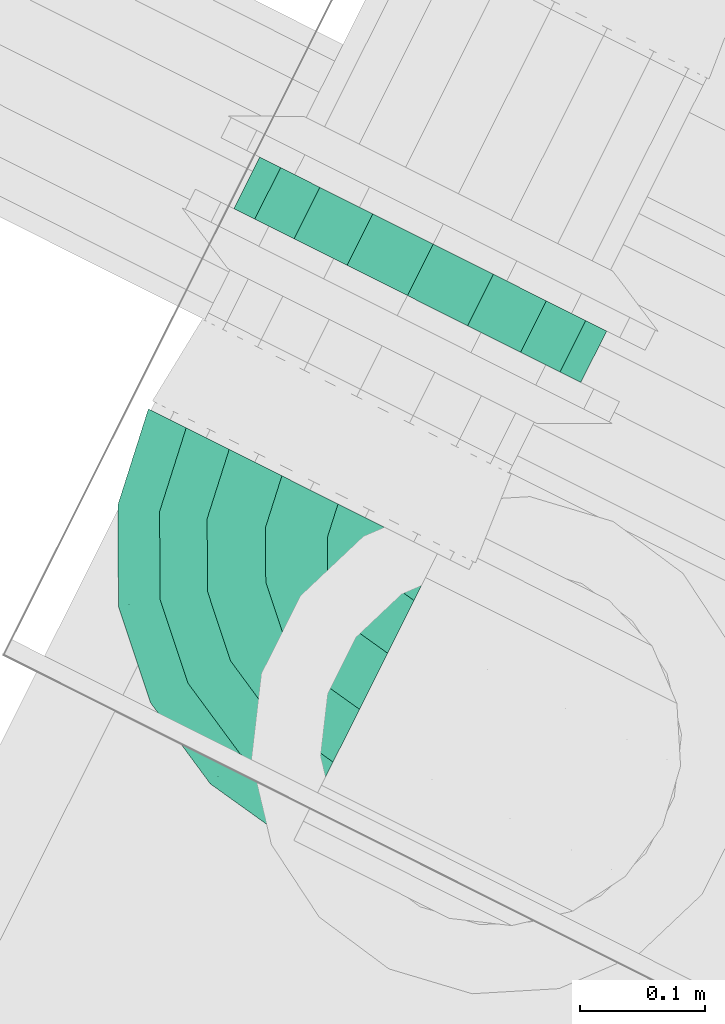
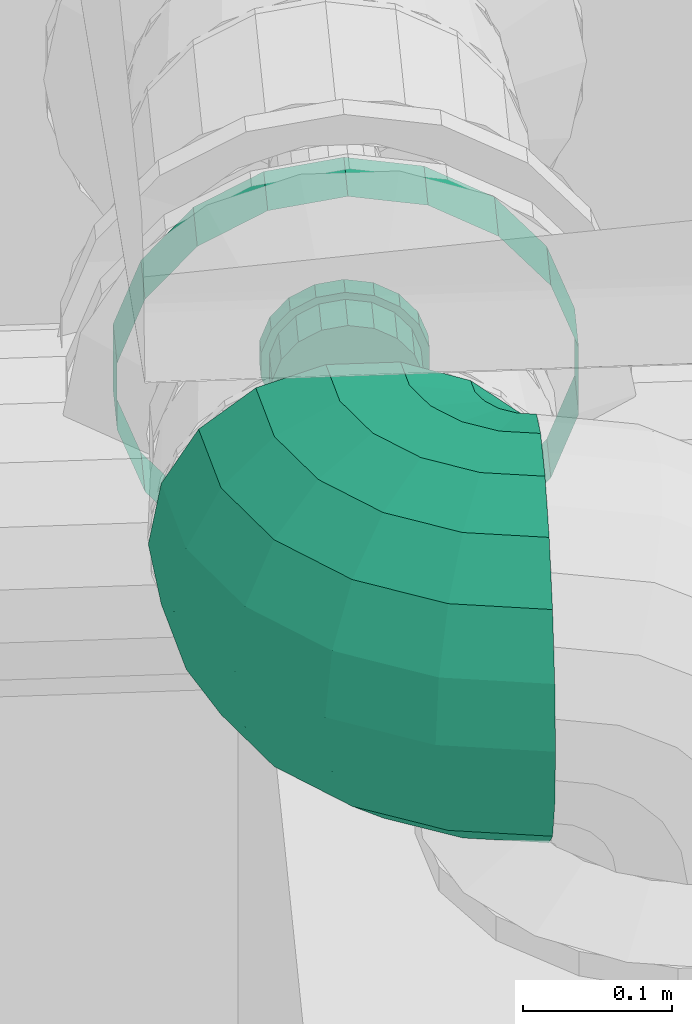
# One storey, part 89 of 206: 1 flow controller, 1 flow segment.
"""IFC2X3 building model written with IfcOpenShell, lengths in metres."""

from ifc_helpers import new_model, si_unit, derived_unit, direction, frame, origin, place, context, subcontext, project, spatial, face_set, surface_model, source, transform, mapped, material, type_object, type_shapes, element, save


model = new_model("IFC2X3")

# Units and contexts
model_context = context("Model", 3, precision=5.2338327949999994e-05, world=origin(), true_north=direction((0.0, 1.0)))
body_context = subcontext(model_context, "Body", "Model", "MODEL_VIEW")
ifc_project = project(units=[si_unit("LENGTHUNIT", "METRE"), si_unit("AREAUNIT", "SQUARE_METRE"), si_unit("VOLUMEUNIT", "CUBIC_METRE"), si_unit("MASSUNIT", "GRAM", prefix="KILO"), si_unit("PLANEANGLEUNIT", "RADIAN"), derived_unit("THERMALTRANSMITTANCEUNIT", [(si_unit("MASSUNIT", "GRAM", prefix="KILO"), 1), (si_unit("THERMODYNAMICTEMPERATUREUNIT", "KELVIN"), -1), (si_unit("TIMEUNIT", "SECOND"), -3)])], contexts=[model_context])

# Site, building, storey
site_placement = place(None, frame((0.0, 0.0, 0.0), z_axis=(0.0, 0.0, 1.0), x_axis=(0.8939966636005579, -0.4480736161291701, 0.0)))
site = spatial("IfcSite", under=ifc_project, at=site_placement, Name="Default", CompositionType="ELEMENT")
building_placement = place(site_placement, origin())
building = spatial("IfcBuilding", under=site, at=building_placement, CompositionType="ELEMENT")
storey_placement = place(building_placement, origin())
storey = spatial("IfcBuildingStorey", under=building, at=storey_placement, Name="Erdgeschoss", CompositionType="ELEMENT", Elevation=0.0)

# Flow segment
ifc_material = material(Name="IfcSurfaceStyle #1741")
distribution_element_type_1 = type_object("IfcDistributionElementType", Name="Rohrbogen 329245:Rohrbogen 329245", material=ifc_material)
shared_shape_1 = source(origin(), body_context, "Body", "SurfaceModel", [
    surface_model("IfcFaceBasedSurfaceModel", [(30.02516497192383, 8.436875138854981, 2.314000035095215), (30.074127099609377, 8.429120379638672, 2.314000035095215), (30.02599282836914, 8.439424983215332, 2.3292027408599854), (30.074127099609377, 8.431801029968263, 2.3292027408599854), (29.98099324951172, 8.459381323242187, 2.314000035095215), (29.982569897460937, 8.46155037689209, 2.3292027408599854), (29.945939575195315, 8.494435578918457, 2.314000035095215), (29.948106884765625, 8.49601106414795, 2.3292027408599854), (29.92343397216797, 8.538606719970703, 2.314000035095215), (29.925982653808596, 8.539434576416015, 2.3292027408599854), (29.9156786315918, 8.587570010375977, 2.314000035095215), (29.9183575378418, 8.587570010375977, 2.3292027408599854), (30.074127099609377, 8.439519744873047, 2.3425718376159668), (30.028378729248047, 8.446765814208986, 2.3425718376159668), (29.987106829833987, 8.467794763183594, 2.3425718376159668), (29.95435301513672, 8.500547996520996, 2.3425718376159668), (29.93332406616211, 8.54181989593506, 2.3425718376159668), (29.926077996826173, 8.587570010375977, 2.3425718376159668), (30.074127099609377, 8.451345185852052, 2.352494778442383), (30.03203199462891, 8.458012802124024, 2.352494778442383), (29.994057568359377, 8.47736162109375, 2.352494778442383), (29.963919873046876, 8.50749931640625, 2.352494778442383), (29.944569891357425, 8.545474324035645, 2.352494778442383), (29.937902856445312, 8.587570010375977, 2.352494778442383), (30.036515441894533, 8.471809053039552, 2.357774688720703), (30.074127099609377, 8.465851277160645, 2.357774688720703), (30.00258262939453, 8.489097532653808, 2.357774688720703), (29.9756563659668, 8.516025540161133, 2.357774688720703), (29.958366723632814, 8.549957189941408, 2.357774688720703), (29.95240894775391, 8.587570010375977, 2.357774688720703), (30.04128491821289, 8.486490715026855, 2.357774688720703), (30.074127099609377, 8.481288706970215, 2.357774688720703), (30.011656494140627, 8.50158688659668, 2.357774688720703), (29.98814397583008, 8.525099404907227, 2.357774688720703), (29.973049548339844, 8.55472724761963, 2.357774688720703), (29.967847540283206, 8.587570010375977, 2.357774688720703), (30.074127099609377, 8.495795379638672, 2.352494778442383), (30.045768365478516, 8.500286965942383, 2.352494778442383), (30.020183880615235, 8.51332279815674, 2.352494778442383), (29.99988046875, 8.533626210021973, 2.352494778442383), (29.986844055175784, 8.55921011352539, 2.352494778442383), (29.9823536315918, 8.587570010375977, 2.352494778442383), (30.074127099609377, 8.507620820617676, 2.3425718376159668), (30.049421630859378, 8.511533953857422, 2.3425718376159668), (30.027134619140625, 8.522889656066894, 2.3425718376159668), (30.00944732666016, 8.540576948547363, 2.3425718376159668), (29.998092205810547, 8.562864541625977, 2.3425718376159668), (29.99417849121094, 8.587570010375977, 2.3425718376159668), (30.051807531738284, 8.518874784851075, 2.3292027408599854), (30.074127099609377, 8.515339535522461, 2.3292027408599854), (30.031671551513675, 8.529134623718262, 2.3292027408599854), (30.015691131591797, 8.545113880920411, 2.3292027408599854), (30.005433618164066, 8.56524986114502, 2.3292027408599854), (30.00189662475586, 8.587570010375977, 2.3292027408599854), (30.052635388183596, 8.521424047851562, 2.314000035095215), (30.074127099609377, 8.518020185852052, 2.314000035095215), (30.033248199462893, 8.531303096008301, 2.314000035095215), (30.017860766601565, 8.546689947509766, 2.314000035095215), (30.007982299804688, 8.566078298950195, 2.314000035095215), (30.004577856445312, 8.587570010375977, 2.314000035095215), (30.074127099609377, 8.515339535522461, 2.298797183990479), (30.051807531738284, 8.518874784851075, 2.298797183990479), (30.031671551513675, 8.529134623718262, 2.298797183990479), (30.015691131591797, 8.545113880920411, 2.298797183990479), (30.005433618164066, 8.56524986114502, 2.298797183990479), (30.00189662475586, 8.587570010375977, 2.298797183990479), (30.074127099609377, 8.507620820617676, 2.285428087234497), (30.049421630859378, 8.511533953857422, 2.285428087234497), (30.027134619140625, 8.522889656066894, 2.285428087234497), (30.00944732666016, 8.540576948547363, 2.285428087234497), (29.998092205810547, 8.562864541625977, 2.285428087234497), (29.99417849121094, 8.587570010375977, 2.285428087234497), (30.074127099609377, 8.495795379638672, 2.275505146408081), (30.045768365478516, 8.500286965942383, 2.275505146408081), (30.020183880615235, 8.51332279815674, 2.275505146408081), (29.99988046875, 8.533626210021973, 2.275505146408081), (29.986844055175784, 8.55921011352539, 2.275505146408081), (29.9823536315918, 8.587570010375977, 2.275505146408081), (30.04128491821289, 8.486490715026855, 2.270225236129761), (30.074127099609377, 8.481288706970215, 2.270225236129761), (30.011656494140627, 8.50158688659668, 2.270225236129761), (29.98814397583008, 8.525099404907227, 2.270225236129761), (29.973049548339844, 8.55472724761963, 2.270225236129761), (29.967847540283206, 8.587570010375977, 2.270225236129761), (30.074127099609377, 8.465851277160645, 2.270225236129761), (30.036515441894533, 8.471809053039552, 2.270225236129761), (30.00258262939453, 8.489097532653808, 2.270225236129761), (29.9756563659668, 8.516025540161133, 2.270225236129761), (29.958366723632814, 8.549957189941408, 2.270225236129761), (29.95240894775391, 8.587570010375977, 2.270225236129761), (30.074127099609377, 8.451345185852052, 2.275505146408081), (30.03203199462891, 8.458012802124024, 2.275505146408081), (29.994057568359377, 8.47736162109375, 2.275505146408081), (29.963919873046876, 8.50749931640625, 2.275505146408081), (29.944569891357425, 8.545474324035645, 2.275505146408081), (29.937902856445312, 8.587570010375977, 2.275505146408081), (30.028378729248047, 8.446765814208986, 2.285428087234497), (30.074127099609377, 8.439519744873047, 2.285428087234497), (29.987106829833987, 8.467794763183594, 2.285428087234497), (29.95435301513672, 8.500547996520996, 2.285428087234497), (29.93332406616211, 8.54181989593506, 2.285428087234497), (29.926077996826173, 8.587570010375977, 2.285428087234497), (30.02599282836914, 8.439424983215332, 2.298797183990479), (30.074127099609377, 8.431801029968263, 2.298797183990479), (29.982569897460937, 8.46155037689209, 2.298797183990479), (29.948106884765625, 8.49601106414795, 2.298797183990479), (29.925982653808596, 8.539434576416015, 2.298797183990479), (29.9183575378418, 8.587570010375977, 2.298797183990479), (29.99426220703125, 8.341769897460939, 2.314000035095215), (30.074127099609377, 8.3291200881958, 2.314000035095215), (29.99695506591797, 8.350054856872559, 2.3634048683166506), (30.074127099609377, 8.33783176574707, 2.3634048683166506), (29.922215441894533, 8.378479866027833, 2.314000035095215), (29.927336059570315, 8.385527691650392, 2.3634048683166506), (29.865037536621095, 8.435657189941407, 2.314000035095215), (29.872085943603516, 8.440777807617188, 2.3634048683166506), (29.828328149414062, 8.50770453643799, 2.314000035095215), (29.836611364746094, 8.510396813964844, 2.3634048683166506), (29.815677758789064, 8.587570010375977, 2.314000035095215), (29.82438885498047, 8.587570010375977, 2.3634048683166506), (30.074127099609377, 8.362915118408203, 2.4068506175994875), (30.004705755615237, 8.373910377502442, 2.4068506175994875), (29.942079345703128, 8.405820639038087, 2.4068506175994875), (29.892377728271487, 8.45552109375, 2.4068506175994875), (29.860468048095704, 8.518148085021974, 2.4068506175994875), (29.84947337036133, 8.587570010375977, 2.4068506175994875), (30.016581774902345, 8.41045989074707, 2.439097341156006), (30.074127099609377, 8.401345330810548, 2.439097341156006), (29.964668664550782, 8.436911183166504, 2.439097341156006), (29.92346885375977, 8.478109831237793, 2.439097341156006), (29.89701697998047, 8.53002352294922, 2.439097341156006), (29.887903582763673, 8.587570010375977, 2.439097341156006), (30.074127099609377, 8.448486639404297, 2.4562555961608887), (30.03114832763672, 8.455293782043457, 2.4562555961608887), (29.99237627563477, 8.475049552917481, 2.4562555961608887), (29.961606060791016, 8.505819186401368, 2.4562555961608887), (29.94185145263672, 8.54459123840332, 2.4562555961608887), (29.935044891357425, 8.587570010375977, 2.4562555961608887), (30.074127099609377, 8.498653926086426, 2.4562555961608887), (30.046652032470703, 8.503005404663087, 2.4562555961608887), (30.021865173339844, 8.51563544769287, 2.4562555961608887), (30.002191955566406, 8.535306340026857, 2.4562555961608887), (29.989562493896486, 8.560093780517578, 2.4562555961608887), (29.98521159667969, 8.587570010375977, 2.4562555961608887), (30.074127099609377, 8.545795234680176, 2.439097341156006), (30.06121858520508, 8.547839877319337, 2.439097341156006), (30.04957278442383, 8.553773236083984, 2.439097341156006), (30.04033148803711, 8.56301569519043, 2.439097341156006), (30.034396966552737, 8.574660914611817, 2.439097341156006), (30.032352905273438, 8.587570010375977, 2.439097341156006), (30.074127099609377, 8.58422544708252, 2.4068506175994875), (30.07309460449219, 8.584388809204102, 2.4068506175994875), (30.072162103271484, 8.584864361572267, 2.4068506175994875), (30.071422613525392, 8.58560385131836, 2.4068506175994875), (30.0709458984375, 8.586536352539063, 2.4068506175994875), (30.070783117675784, 8.587570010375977, 2.4068506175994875), (30.074127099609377, 8.58757059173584, 2.4010567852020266), (30.073227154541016, 8.58757059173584, 2.401304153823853), (30.074127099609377, 8.58757059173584, 2.2269431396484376), (30.073227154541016, 8.58757059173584, 2.2266957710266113), (30.07309460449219, 8.584388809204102, 2.2211493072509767), (30.074127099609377, 8.58422544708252, 2.2211493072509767), (30.072162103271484, 8.584864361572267, 2.2211493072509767), (30.071422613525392, 8.58560385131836, 2.2211493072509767), (30.0709458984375, 8.586536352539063, 2.2211493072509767), (30.070783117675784, 8.587570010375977, 2.2211493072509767), (30.06121858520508, 8.547839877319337, 2.1889025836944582), (30.074127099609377, 8.545795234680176, 2.1889025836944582), (30.04957278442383, 8.553773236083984, 2.1889025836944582), (30.04033148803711, 8.56301569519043, 2.1889025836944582), (30.034396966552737, 8.574660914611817, 2.1889025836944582), (30.032352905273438, 8.587570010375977, 2.1889025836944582), (30.046652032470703, 8.503005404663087, 2.1717444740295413), (30.074127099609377, 8.498653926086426, 2.1717444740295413), (30.021865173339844, 8.51563544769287, 2.1717444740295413), (30.002191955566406, 8.535306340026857, 2.1717444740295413), (29.989562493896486, 8.560093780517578, 2.1717444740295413), (29.98521159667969, 8.587570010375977, 2.1717444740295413), (30.03114832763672, 8.455293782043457, 2.1717444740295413), (30.074127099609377, 8.448486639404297, 2.1717444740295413), (29.99237627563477, 8.475049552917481, 2.1717444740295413), (29.961606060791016, 8.505819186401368, 2.1717444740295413), (29.94185145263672, 8.54459123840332, 2.1717444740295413), (29.935044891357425, 8.587570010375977, 2.1717444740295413), (30.016581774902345, 8.41045989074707, 2.1889025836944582), (30.074127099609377, 8.401345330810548, 2.1889025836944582), (29.964668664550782, 8.436911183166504, 2.1889025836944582), (29.92346885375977, 8.478109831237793, 2.1889025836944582), (29.89701697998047, 8.53002352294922, 2.1889025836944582), (29.887903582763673, 8.587570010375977, 2.1889025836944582), (30.074127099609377, 8.362915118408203, 2.2211493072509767), (30.004705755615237, 8.373910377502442, 2.2211493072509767), (29.942079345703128, 8.405820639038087, 2.2211493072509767), (29.892377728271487, 8.45552109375, 2.2211493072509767), (29.860468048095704, 8.518148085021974, 2.2211493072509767), (29.84947337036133, 8.587570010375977, 2.2211493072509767), (29.99695506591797, 8.350054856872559, 2.2645952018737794), (30.074127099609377, 8.33783176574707, 2.2645952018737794), (29.927336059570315, 8.385527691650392, 2.2645952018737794), (29.872085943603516, 8.440777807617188, 2.2645952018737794), (29.836611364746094, 8.510396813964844, 2.2645952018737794), (29.82438885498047, 8.587570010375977, 2.2645952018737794)], [face_set([[[0, 1, 2]], [[3, 2, 1]], [[4, 0, 5]], [[2, 5, 0]], [[6, 4, 5]], [[5, 7, 6]], [[8, 6, 7]], [[7, 9, 8]], [[10, 8, 9]], [[9, 11, 10]], [[2, 3, 12]], [[12, 13, 2]], [[5, 2, 13]], [[13, 14, 5]], [[7, 5, 15]], [[14, 15, 5]], [[9, 7, 16]], [[15, 16, 7]], [[11, 9, 17]], [[16, 17, 9]], [[13, 12, 18]], [[18, 19, 13]], [[14, 13, 19]], [[19, 20, 14]], [[15, 14, 20]], [[20, 21, 15]], [[16, 15, 21]], [[21, 22, 16]], [[17, 16, 22]], [[22, 23, 17]], [[19, 18, 24]], [[25, 24, 18]], [[20, 19, 26]], [[24, 26, 19]], [[21, 20, 27]], [[26, 27, 20]], [[22, 21, 28]], [[27, 28, 21]], [[23, 22, 29]], [[28, 29, 22]], [[24, 25, 30]], [[31, 30, 25]], [[26, 24, 30]], [[30, 32, 26]], [[27, 26, 32]], [[32, 33, 27]], [[28, 27, 34]], [[33, 34, 27]], [[29, 28, 34]], [[34, 35, 29]], [[30, 31, 36]], [[36, 37, 30]], [[32, 30, 37]], [[37, 38, 32]], [[33, 32, 39]], [[38, 39, 32]], [[34, 33, 40]], [[39, 40, 33]], [[35, 34, 41]], [[40, 41, 34]], [[37, 36, 42]], [[42, 43, 37]], [[38, 37, 43]], [[43, 44, 38]], [[39, 38, 44]], [[44, 45, 39]], [[40, 39, 46]], [[45, 46, 39]], [[41, 40, 46]], [[46, 47, 41]], [[43, 42, 48]], [[49, 48, 42]], [[44, 43, 50]], [[48, 50, 43]], [[45, 44, 51]], [[50, 51, 44]], [[46, 45, 52]], [[51, 52, 45]], [[47, 46, 52]], [[52, 53, 47]], [[48, 49, 54]], [[55, 54, 49]], [[50, 48, 54]], [[54, 56, 50]], [[51, 50, 56]], [[56, 57, 51]], [[52, 51, 58]], [[57, 58, 51]], [[53, 52, 58]], [[58, 59, 53]], [[54, 55, 60]], [[60, 61, 54]], [[56, 54, 62]], [[61, 62, 54]], [[57, 56, 62]], [[62, 63, 57]], [[58, 57, 63]], [[63, 64, 58]], [[59, 58, 64]], [[64, 65, 59]], [[61, 60, 66]], [[66, 67, 61]], [[62, 61, 67]], [[67, 68, 62]], [[63, 62, 69]], [[68, 69, 62]], [[64, 63, 69]], [[69, 70, 64]], [[65, 64, 71]], [[70, 71, 64]], [[67, 66, 72]], [[72, 73, 67]], [[68, 67, 74]], [[73, 74, 67]], [[69, 68, 75]], [[74, 75, 68]], [[70, 69, 75]], [[75, 76, 70]], [[71, 70, 77]], [[76, 77, 70]], [[73, 72, 78]], [[79, 78, 72]], [[74, 73, 78]], [[78, 80, 74]], [[75, 74, 80]], [[80, 81, 75]], [[76, 75, 81]], [[81, 82, 76]], [[77, 76, 82]], [[82, 83, 77]], [[78, 79, 84]], [[84, 85, 78]], [[80, 78, 86]], [[85, 86, 78]], [[81, 80, 86]], [[86, 87, 81]], [[82, 81, 87]], [[87, 88, 82]], [[83, 82, 89]], [[88, 89, 82]], [[85, 84, 90]], [[90, 91, 85]], [[86, 85, 91]], [[91, 92, 86]], [[87, 86, 92]], [[92, 93, 87]], [[88, 87, 93]], [[93, 94, 88]], [[89, 88, 94]], [[94, 95, 89]], [[91, 90, 96]], [[97, 96, 90]], [[92, 91, 98]], [[96, 98, 91]], [[93, 92, 99]], [[98, 99, 92]], [[94, 93, 100]], [[99, 100, 93]], [[95, 94, 101]], [[100, 101, 94]], [[96, 97, 102]], [[103, 102, 97]], [[98, 96, 104]], [[102, 104, 96]], [[99, 98, 104]], [[104, 105, 99]], [[100, 99, 105]], [[105, 106, 100]], [[101, 100, 106]], [[106, 107, 101]], [[102, 103, 1]], [[1, 0, 102]], [[104, 102, 4]], [[0, 4, 102]], [[105, 104, 6]], [[4, 6, 104]], [[106, 105, 8]], [[6, 8, 105]], [[107, 106, 10]], [[8, 10, 106]], [[108, 109, 110]], [[111, 110, 109]], [[112, 108, 113]], [[110, 113, 108]], [[114, 112, 115]], [[113, 115, 112]], [[116, 114, 117]], [[115, 117, 114]], [[118, 116, 119]], [[117, 119, 116]], [[110, 111, 120]], [[120, 121, 110]], [[113, 110, 121]], [[121, 122, 113]], [[115, 113, 122]], [[122, 123, 115]], [[117, 115, 123]], [[123, 124, 117]], [[119, 117, 124]], [[124, 125, 119]], [[121, 120, 126]], [[127, 126, 120]], [[122, 121, 128]], [[126, 128, 121]], [[123, 122, 129]], [[128, 129, 122]], [[124, 123, 130]], [[129, 130, 123]], [[125, 124, 130]], [[130, 131, 125]], [[126, 127, 132]], [[132, 133, 126]], [[128, 126, 133]], [[133, 134, 128]], [[129, 128, 135]], [[134, 135, 128]], [[130, 129, 136]], [[135, 136, 129]], [[131, 130, 137]], [[136, 137, 130]], [[133, 132, 138]], [[138, 139, 133]], [[134, 133, 140]], [[139, 140, 133]], [[135, 134, 141]], [[140, 141, 134]], [[136, 135, 142]], [[141, 142, 135]], [[137, 136, 142]], [[142, 143, 137]], [[139, 138, 144]], [[144, 145, 139]], [[140, 139, 145]], [[145, 146, 140]], [[141, 140, 147]], [[146, 147, 140]], [[142, 141, 148]], [[147, 148, 141]], [[143, 142, 148]], [[148, 149, 143]], [[145, 144, 150]], [[150, 151, 145]], [[146, 145, 152]], [[151, 152, 145]], [[147, 146, 153]], [[152, 153, 146]], [[148, 147, 154]], [[153, 154, 147]], [[149, 148, 154]], [[154, 155, 149]], [[156, 151, 157]], [[156, 157, 150]], [[151, 150, 157]], [[151, 156, 152]], [[153, 152, 156]], [[154, 153, 156]], [[155, 154, 156]], [[158, 159, 160]], [[161, 160, 159]], [[159, 158, 161]], [[160, 162, 158]], [[158, 162, 163]], [[164, 158, 163]], [[165, 158, 164]], [[160, 161, 166]], [[167, 166, 161]], [[162, 160, 168]], [[166, 168, 160]], [[163, 162, 168]], [[168, 169, 163]], [[164, 163, 169]], [[169, 170, 164]], [[165, 164, 171]], [[170, 171, 164]], [[166, 167, 172]], [[173, 172, 167]], [[168, 166, 174]], [[172, 174, 166]], [[169, 168, 174]], [[174, 175, 169]], [[170, 169, 175]], [[175, 176, 170]], [[171, 170, 177]], [[176, 177, 170]], [[172, 173, 178]], [[179, 178, 173]], [[174, 172, 180]], [[178, 180, 172]], [[175, 174, 180]], [[180, 181, 175]], [[176, 175, 181]], [[181, 182, 176]], [[177, 176, 183]], [[182, 183, 176]], [[178, 179, 184]], [[185, 184, 179]], [[180, 178, 186]], [[184, 186, 178]], [[181, 180, 187]], [[186, 187, 180]], [[182, 181, 187]], [[187, 188, 182]], [[183, 182, 189]], [[188, 189, 182]], [[184, 185, 190]], [[190, 191, 184]], [[186, 184, 191]], [[191, 192, 186]], [[187, 186, 192]], [[192, 193, 187]], [[188, 187, 193]], [[193, 194, 188]], [[189, 188, 195]], [[194, 195, 188]], [[191, 190, 196]], [[197, 196, 190]], [[192, 191, 198]], [[196, 198, 191]], [[193, 192, 199]], [[198, 199, 192]], [[194, 193, 200]], [[199, 200, 193]], [[195, 194, 201]], [[200, 201, 194]], [[196, 197, 109]], [[109, 108, 196]], [[198, 196, 108]], [[108, 112, 198]], [[199, 198, 112]], [[112, 114, 199]], [[200, 199, 114]], [[114, 116, 200]], [[201, 200, 116]], [[116, 118, 201]]])]),
])
type_shapes(distribution_element_type_1, [shared_shape_1])
flow_segment_placement = place(storey_placement, origin())
element("IfcFlowSegment", 1, at=flow_segment_placement, inside=storey, type_object=distribution_element_type_1, material=ifc_material, Name="Rohrbogen", ObjectType="Rohrbogen", context=body_context, shape_type="MappedRepresentation", body=[
    mapped(shared_shape_1, transform((0.0, 0.0, 0.0), scale=1.0)),
])

# Flow controller
distribution_element_type_2 = type_object("IfcDistributionElementType", Name="Disco-Rückschlagklappe:Disco-Rückschlagklappe", material=ifc_material)
shared_shape_2 = source(origin(), body_context, "Body", "SurfaceModel", [
    surface_model("IfcFaceBasedSurfaceModel", [(29.960127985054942, 8.761317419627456, 2.2622500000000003), (29.942428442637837, 8.761317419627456, 2.2653709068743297), (29.942428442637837, 8.791984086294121, 2.265370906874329), (29.960127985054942, 8.791984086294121, 2.2622499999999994), (29.92686372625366, 8.761317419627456, 2.2743572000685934), (29.92686372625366, 8.791984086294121, 2.2743572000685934), (29.915311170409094, 8.761317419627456, 2.2881249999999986), (29.915311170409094, 8.791984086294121, 2.2881249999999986), (29.909164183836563, 8.761317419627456, 2.305013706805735), (29.909164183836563, 8.791984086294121, 2.305013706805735), (29.909164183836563, 8.761317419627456, 2.3229862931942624), (29.909164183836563, 8.791984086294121, 2.3229862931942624), (29.915311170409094, 8.761317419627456, 2.3398749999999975), (29.915311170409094, 8.791984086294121, 2.3398749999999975), (29.92686372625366, 8.761317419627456, 2.3536427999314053), (29.92686372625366, 8.791984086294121, 2.3536427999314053), (29.942428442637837, 8.761317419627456, 2.3626290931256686), (29.942428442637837, 8.791984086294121, 2.3626290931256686), (29.960127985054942, 8.761317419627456, 2.3657500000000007), (29.960127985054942, 8.791984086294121, 2.3657500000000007), (29.97782752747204, 8.761317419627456, 2.362629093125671), (29.97782752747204, 8.791984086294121, 2.362629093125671), (29.993392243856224, 8.761317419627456, 2.353642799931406), (29.993392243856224, 8.791984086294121, 2.353642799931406), (30.004944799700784, 8.761317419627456, 2.339875), (30.004944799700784, 8.791984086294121, 2.339875), (30.01109178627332, 8.761317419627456, 2.322986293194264), (30.01109178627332, 8.791984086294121, 2.322986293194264), (30.01109178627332, 8.761317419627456, 2.305013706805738), (30.01109178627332, 8.791984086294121, 2.305013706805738), (30.004944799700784, 8.761317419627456, 2.288125), (30.004944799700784, 8.791984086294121, 2.288125), (29.993392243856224, 8.761317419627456, 2.2743572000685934), (29.993392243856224, 8.791984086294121, 2.2743572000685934), (29.97782752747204, 8.761317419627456, 2.265370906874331), (29.97782752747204, 8.791984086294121, 2.265370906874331), (29.960127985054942, 8.761317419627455, 2.314), (29.960127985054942, 8.791984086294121, 2.2565000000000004), (29.94046182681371, 8.791984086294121, 2.2599676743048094), (29.94046182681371, 8.807317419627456, 2.2599676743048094), (29.960127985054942, 8.807317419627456, 2.2565000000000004), (29.923167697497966, 8.791984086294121, 2.269952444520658), (29.923167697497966, 8.807317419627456, 2.269952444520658), (29.910331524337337, 8.791984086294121, 2.285249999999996), (29.910331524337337, 8.807317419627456, 2.285249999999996), (29.903501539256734, 8.791984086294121, 2.304015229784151), (29.903501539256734, 8.807317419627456, 2.304015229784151), (29.903501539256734, 8.791984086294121, 2.3239847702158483), (29.903501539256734, 8.807317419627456, 2.3239847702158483), (29.910331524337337, 8.791984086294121, 2.342749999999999), (29.910331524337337, 8.807317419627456, 2.342749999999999), (29.923167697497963, 8.791984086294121, 2.358047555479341), (29.923167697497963, 8.807317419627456, 2.358047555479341), (29.94046182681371, 8.791984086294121, 2.3680323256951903), (29.94046182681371, 8.807317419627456, 2.3680323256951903), (29.960127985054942, 8.791984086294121, 2.3715000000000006), (29.960127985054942, 8.807317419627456, 2.3715000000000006), (29.97979414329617, 8.791984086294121, 2.368032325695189), (29.97979414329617, 8.807317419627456, 2.368032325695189), (29.99708827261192, 8.791984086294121, 2.3580475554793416), (29.99708827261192, 8.807317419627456, 2.3580475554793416), (30.009924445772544, 8.791984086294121, 2.3427500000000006), (30.009924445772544, 8.807317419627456, 2.3427500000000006), (30.016754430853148, 8.791984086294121, 2.323984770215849), (30.016754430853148, 8.807317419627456, 2.323984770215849), (30.016754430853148, 8.791984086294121, 2.304015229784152), (30.016754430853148, 8.807317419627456, 2.304015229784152), (30.009924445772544, 8.791984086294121, 2.2852499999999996), (30.009924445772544, 8.807317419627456, 2.2852499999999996), (29.99708827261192, 8.791984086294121, 2.269952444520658), (29.99708827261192, 8.807317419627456, 2.269952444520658), (29.97979414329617, 8.791984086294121, 2.259967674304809), (29.97979414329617, 8.807317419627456, 2.259967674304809), (29.960127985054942, 8.79198408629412, 2.314), (29.960127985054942, 8.807317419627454, 2.314), (29.960127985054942, 8.761317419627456, 2.1565000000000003), (29.906259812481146, 8.761317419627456, 2.165998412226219), (29.906259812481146, 8.807317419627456, 2.165998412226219), (29.960127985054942, 8.807317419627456, 2.1565000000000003), (29.858888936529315, 8.761317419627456, 2.1933480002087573), (29.858888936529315, 8.807317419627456, 2.1933480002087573), (29.823728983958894, 8.761317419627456, 2.2352499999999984), (29.823728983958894, 8.807317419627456, 2.2352499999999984), (29.805020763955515, 8.761317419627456, 2.286650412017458), (29.805020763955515, 8.807317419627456, 2.286650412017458), (29.805020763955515, 8.761317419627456, 2.341349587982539), (29.805020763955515, 8.807317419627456, 2.341349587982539), (29.823728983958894, 8.761317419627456, 2.392749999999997), (29.823728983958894, 8.807317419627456, 2.392749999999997), (29.85888893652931, 8.761317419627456, 2.4346519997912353), (29.85888893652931, 8.807317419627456, 2.4346519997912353), (29.906259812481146, 8.761317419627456, 2.4620015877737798), (29.906259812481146, 8.807317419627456, 2.4620015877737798), (29.960127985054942, 8.761317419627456, 2.4715000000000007), (29.960127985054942, 8.807317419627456, 2.4715000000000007), (30.013996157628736, 8.761317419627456, 2.46200158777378), (30.013996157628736, 8.807317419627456, 2.46200158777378), (30.061367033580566, 8.761317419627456, 2.4346519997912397), (30.061367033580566, 8.807317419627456, 2.4346519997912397), (30.096526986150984, 8.761317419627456, 2.3927500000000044), (30.096526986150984, 8.807317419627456, 2.3927500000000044), (30.115235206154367, 8.761317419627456, 2.3413495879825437), (30.115235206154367, 8.807317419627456, 2.3413495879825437), (30.115235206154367, 8.761317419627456, 2.286650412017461), (30.115235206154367, 8.807317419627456, 2.286650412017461), (30.096526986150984, 8.761317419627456, 2.235250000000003), (30.096526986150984, 8.807317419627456, 2.235250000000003), (30.061367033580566, 8.761317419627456, 2.19334800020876), (30.061367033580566, 8.807317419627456, 2.19334800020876), (30.013996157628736, 8.761317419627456, 2.1659984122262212), (30.013996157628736, 8.807317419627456, 2.1659984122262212)], [face_set([[[0, 1, 2, 3]], [[1, 4, 5, 2]], [[4, 6, 7, 5]], [[6, 8, 9, 7]], [[8, 10, 11, 9]], [[10, 12, 13, 11]], [[12, 14, 15, 13]], [[14, 16, 17, 15]], [[16, 18, 19, 17]], [[18, 20, 21, 19]], [[20, 22, 23, 21]], [[22, 24, 25, 23]], [[24, 26, 27, 25]], [[26, 28, 29, 27]], [[28, 30, 31, 29]], [[30, 32, 33, 31]], [[32, 34, 35, 33]], [[34, 0, 3, 35]], [[36, 1, 0]], [[36, 4, 1]], [[36, 6, 4]], [[36, 8, 6]], [[36, 10, 8]], [[36, 12, 10]], [[36, 14, 12]], [[36, 16, 14]], [[36, 18, 16]], [[36, 20, 18]], [[36, 22, 20]], [[36, 24, 22]], [[36, 26, 24]], [[36, 28, 26]], [[36, 30, 28]], [[36, 32, 30]], [[36, 34, 32]], [[36, 0, 34]], [[37, 38, 39, 40]], [[38, 41, 42, 39]], [[41, 43, 44, 42]], [[43, 45, 46, 44]], [[45, 47, 48, 46]], [[47, 49, 50, 48]], [[49, 51, 52, 50]], [[51, 53, 54, 52]], [[53, 55, 56, 54]], [[55, 57, 58, 56]], [[57, 59, 60, 58]], [[59, 61, 62, 60]], [[61, 63, 64, 62]], [[63, 65, 66, 64]], [[65, 67, 68, 66]], [[67, 69, 70, 68]], [[69, 71, 72, 70]], [[71, 37, 40, 72]], [[73, 38, 37]], [[73, 41, 38]], [[73, 43, 41]], [[73, 45, 43]], [[73, 47, 45]], [[73, 49, 47]], [[73, 51, 49]], [[73, 53, 51]], [[73, 55, 53]], [[73, 57, 55]], [[73, 59, 57]], [[73, 61, 59]], [[73, 63, 61]], [[73, 65, 63]], [[73, 67, 65]], [[73, 69, 67]], [[73, 71, 69]], [[73, 37, 71]], [[74, 72, 40]], [[74, 70, 72]], [[74, 68, 70]], [[74, 66, 68]], [[74, 64, 66]], [[74, 62, 64]], [[74, 60, 62]], [[74, 58, 60]], [[74, 56, 58]], [[74, 54, 56]], [[74, 52, 54]], [[74, 50, 52]], [[74, 48, 50]], [[74, 46, 48]], [[74, 44, 46]], [[74, 42, 44]], [[74, 39, 42]], [[74, 40, 39]], [[75, 76, 77, 78]], [[76, 79, 80, 77]], [[79, 81, 82, 80]], [[81, 83, 84, 82]], [[83, 85, 86, 84]], [[85, 87, 88, 86]], [[87, 89, 90, 88]], [[89, 91, 92, 90]], [[91, 93, 94, 92]], [[93, 95, 96, 94]], [[95, 97, 98, 96]], [[97, 99, 100, 98]], [[99, 101, 102, 100]], [[101, 103, 104, 102]], [[103, 105, 106, 104]], [[105, 107, 108, 106]], [[107, 109, 110, 108]], [[109, 75, 78, 110]]])]),
])
type_shapes(distribution_element_type_2, [shared_shape_2])
flow_controller_placement = place(storey_placement, origin())
element("IfcFlowController", 2, at=flow_controller_placement, inside=storey, type_object=distribution_element_type_2, material=ifc_material, Name="Disco-Rückschlagklappe", ObjectType="Disco-Rückschlagklappe", context=body_context, shape_type="MappedRepresentation", body=[
    mapped(shared_shape_2, transform((0.0, 0.0, 0.0), scale=1.0)),
])

save(model, "model.ifc")
